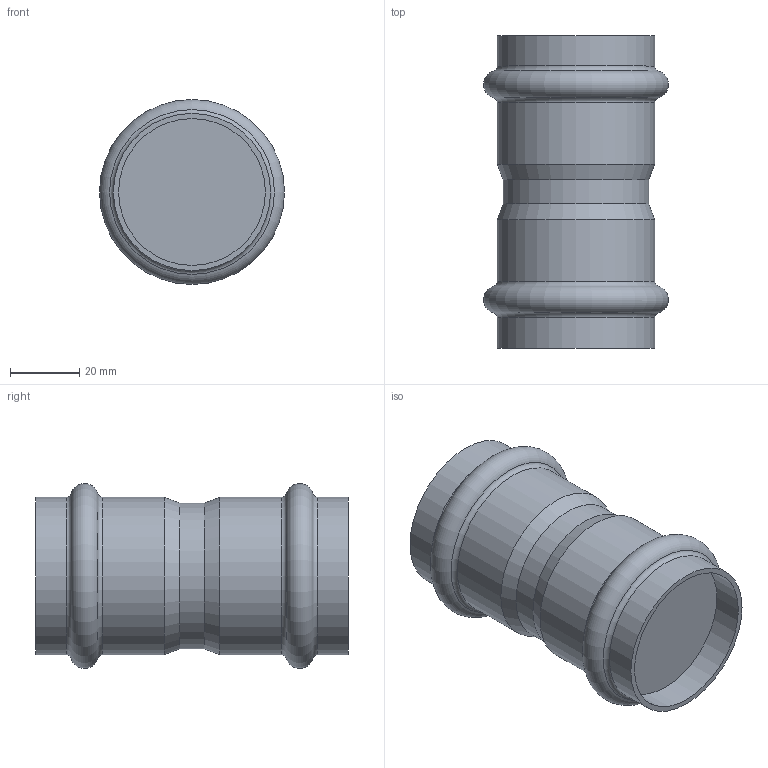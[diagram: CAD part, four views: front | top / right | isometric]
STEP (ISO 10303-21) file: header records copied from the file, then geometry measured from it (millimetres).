
FILE_DESCRIPTION(('STEP AP203'), '1');
FILE_NAME('VTi.903.I.004242', '', ('UNSPECIFIED'), ('UNSPECIFIED'), 'C3D Converter', 'C3D Toolkit', '');
FILE_SCHEMA(('CONFIG_CONTROL_DESIGN'));
Length unit declared in the file: millimetre
Bounding box: 53.28 x 90 x 53.28 mm (x, y, z)
Volume: 125833.7 mm3; surface area: 19753.8 mm2
Topology: 1 solids, 1 shells, 19 faces, 33 edges, 18 vertices
Faces by surface type: cylinder 7, torus 6, plane 4, cone 2
Full cylindrical faces by diameter (mm): 42 x1, 42.3 x2, 45.3 x4
Entity records: 414 total; most frequent: DIRECTION 76, CARTESIAN_POINT 56, AXIS2_PLACEMENT_3D 38, EDGE_LOOP 36, ORIENTED_EDGE 36, FACE_OUTER_BOUND 30, ADVANCED_FACE 19, EDGE_CURVE 18
